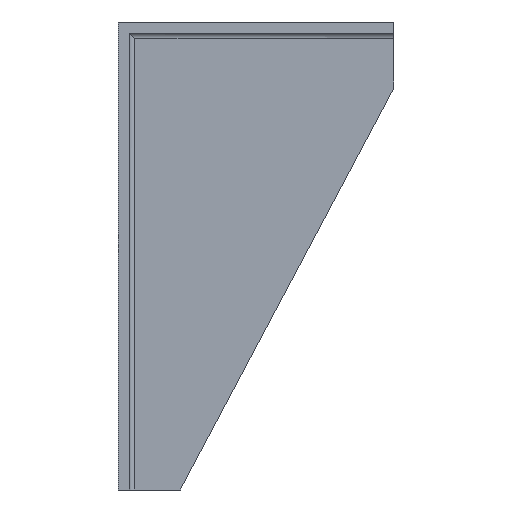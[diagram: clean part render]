
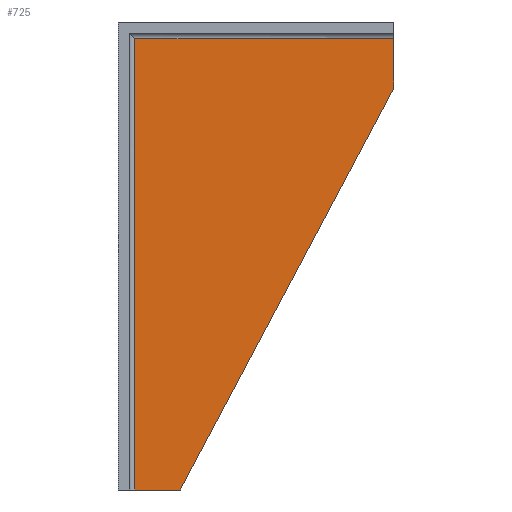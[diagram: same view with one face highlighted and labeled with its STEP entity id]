
A CAD part, front view. The second image highlights one B-rep face of the part: STEP entity #725.
In plain terms, the highlighted planar face has unit normal (0, -1, 0).
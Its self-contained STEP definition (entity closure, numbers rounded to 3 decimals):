
#163=DIRECTION('',(1.,0.,0.));
#164=VECTOR('',#163,94.);
#165=CARTESIAN_POINT('',(6.,-4.,-6.));
#166=LINE('',#165,#164);
#191=DIRECTION('',(0.,0.,1.));
#192=VECTOR('',#191,164.);
#193=CARTESIAN_POINT('',(6.,-4.,-170.));
#194=LINE('',#193,#192);
#336=DIRECTION('',(-1.,0.,0.));
#337=VECTOR('',#336,16.5);
#338=CARTESIAN_POINT('',(22.5,-4.,-170.));
#339=LINE('',#338,#337);
#344=DIRECTION('',(-0.469,0.,-0.883));
#345=VECTOR('',#344,165.294);
#346=CARTESIAN_POINT('',(100.,-4.,-24.));
#347=LINE('',#346,#345);
#352=DIRECTION('',(0.,0.,1.));
#353=VECTOR('',#352,18.);
#354=CARTESIAN_POINT('',(100.,-4.,-24.));
#355=LINE('',#354,#353);
#380=CARTESIAN_POINT('',(100.,-4.,-24.));
#381=CARTESIAN_POINT('',(22.5,-4.,-170.));
#382=VERTEX_POINT('',#380);
#383=VERTEX_POINT('',#381);
#452=CARTESIAN_POINT('',(6.,-4.,-170.));
#453=CARTESIAN_POINT('',(6.,-4.,-6.));
#454=VERTEX_POINT('',#452);
#455=VERTEX_POINT('',#453);
#456=CARTESIAN_POINT('',(100.,-4.,-6.));
#457=VERTEX_POINT('',#456);
#709=CARTESIAN_POINT('',(0.,-4.,0.));
#710=DIRECTION('',(0.,1.,0.));
#711=DIRECTION('',(1.,0.,0.));
#712=AXIS2_PLACEMENT_3D('',#709,#710,#711);
#713=PLANE('',#712);
#715=ORIENTED_EDGE('',*,*,#714,.T.);
#716=ORIENTED_EDGE('',*,*,#699,.T.);
#718=ORIENTED_EDGE('',*,*,#717,.F.);
#720=ORIENTED_EDGE('',*,*,#719,.T.);
#722=ORIENTED_EDGE('',*,*,#721,.T.);
#723=EDGE_LOOP('',(#715,#716,#718,#720,#722));
#724=FACE_OUTER_BOUND('',#723,.F.);
#725=ADVANCED_FACE('',(#724),#713,.F.);
#699=EDGE_CURVE('',#455,#457,#166,.T.);
#714=EDGE_CURVE('',#454,#455,#194,.T.);
#717=EDGE_CURVE('',#382,#457,#355,.T.);
#719=EDGE_CURVE('',#382,#383,#347,.T.);
#721=EDGE_CURVE('',#383,#454,#339,.T.);
